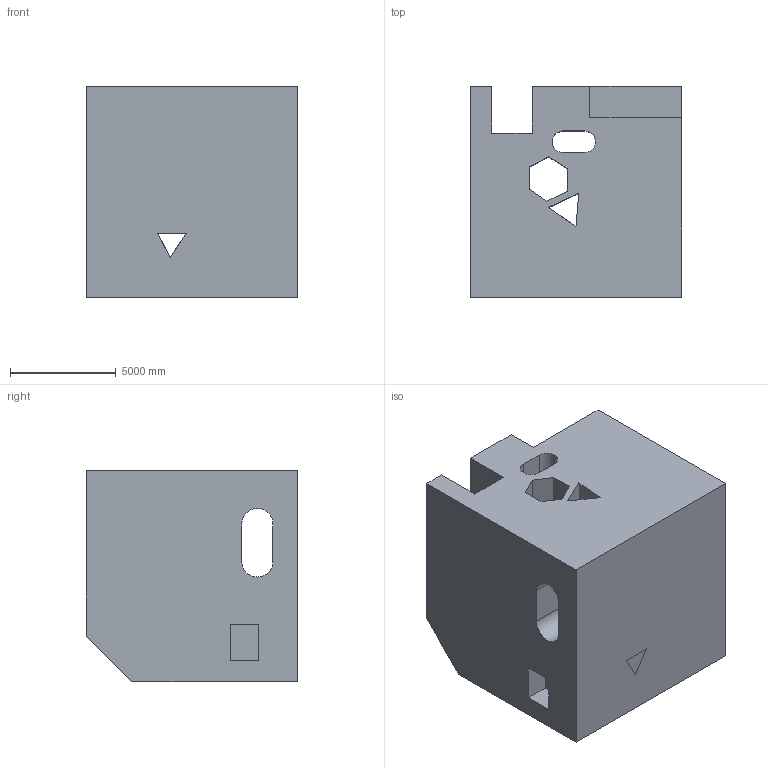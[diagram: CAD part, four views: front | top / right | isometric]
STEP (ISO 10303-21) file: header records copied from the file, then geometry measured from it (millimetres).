
FILE_DESCRIPTION (( 'STEP AP203' ), '1' );
FILE_NAME ('1876.STEP', '2022-08-26T10:48:52', ( 'user' ), ( '' ), 'SwSTEP 2.0', 'SolidWorks 2021', '' );
FILE_SCHEMA (( 'CONFIG_CONTROL_DESIGN' ));
Length unit declared in the file: centimetre
Products named in the file (1): 1876
Bounding box: 10000 x 10000 x 10000 mm (x, y, z)
Volume: 817446759631.5 mm3; surface area: 871597381.4 mm2
Topology: 1 solids, 1 shells, 49 faces, 162 edges, 108 vertices
Faces by surface type: plane 42, cylinder 7
Entity records: 1858 total; most frequent: CARTESIAN_POINT 335, ORIENTED_EDGE 324, DIRECTION 270, EDGE_CURVE 162, VECTOR 144, LINE 144, VERTEX_POINT 108, AXIS2_PLACEMENT_3D 63
